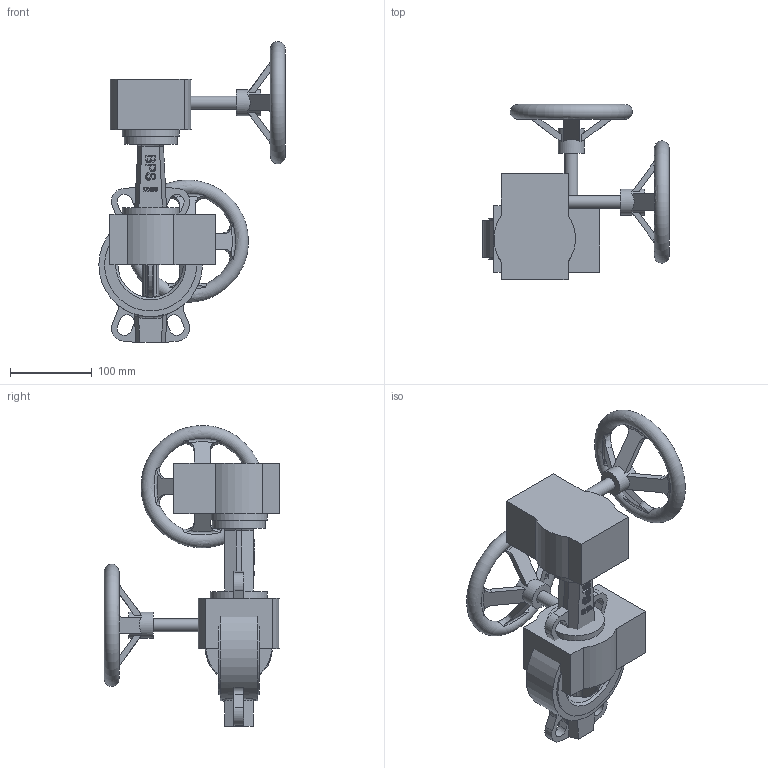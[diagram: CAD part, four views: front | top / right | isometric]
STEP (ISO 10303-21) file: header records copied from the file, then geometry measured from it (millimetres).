
FILE_DESCRIPTION( ( 'Unknown' ), '1' );
FILE_NAME( 'R:/ECCUA/ROOTSI BPS 3D vidinad/Poordklapid Wafer type/Butterfly valve(wafer) with gearbox BPS/STEP formaat/BPS 2303080VX butterfly valve DN80.stp', 'Unknown', ( 'Unknown' ), ( 'Unknown' ), 'PSStep 10.1', 'Unknown', ' ' );
FILE_SCHEMA( ( 'AUTOMOTIVE_DESIGN { 1 0 10303 214 1 1 1 1 }' ) );
Length unit declared in the file: millimetre
Products named in the file (3): Assem1; Butterfly valve wafer type DN80 BPS; Gearbox DN40-80 BPS
Bounding box: 228.49 x 214.99 x 369.13 mm (x, y, z)
Volume: 3048578.1 mm3; surface area: 369911.5 mm2
Topology: 4 solids, 4 shells, 468 faces, 1226 edges, 812 vertices
Faces by surface type: plane 214, cylinder 102, extrusion 74, bspline 56, torus 18, cone 4
Full cylindrical faces by diameter (mm): 7 x8, 16 x4, 32 x2, 65 x2, 70 x2, 80 x2, 113 x4, 127 x2
Entity records: 15184 total; most frequent: CARTESIAN_POINT 7937, ORIENTED_EDGE 1166, DIRECTION 907, EDGE_CURVE 583, VERTEX_POINT 398, AXIS2_PLACEMENT_3D 308, EDGE_LOOP 305, VECTOR 291
